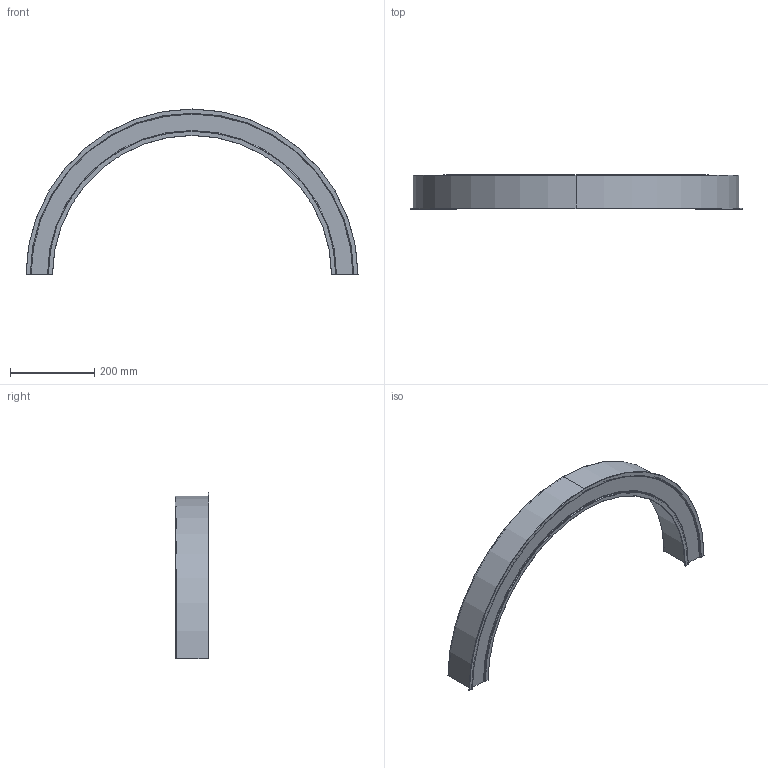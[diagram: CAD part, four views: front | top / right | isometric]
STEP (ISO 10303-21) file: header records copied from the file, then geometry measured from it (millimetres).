
FILE_DESCRIPTION (( 'STEP AP203' ), '1' );
FILE_NAME ('mLight_Swerve 47 Recessed_R362.5 mm 180 deg.STEP', '2020-04-01T10:12:11', ( '' ), ( '' ), 'SwSTEP 2.0', 'SolidWorks 2017', '' );
FILE_SCHEMA (( 'CONFIG_CONTROL_DESIGN' ));
Length unit declared in the file: millimetre
Products named in the file (1): mLight_Swerve 47 Recessed_R362.5 mm 180 deg
Bounding box: 788 x 80.63 x 394 mm (x, y, z)
Volume: 4135075.6 mm3; surface area: 358032.9 mm2
Topology: 1 solids, 1 shells, 93 faces, 247 edges, 156 vertices
Faces by surface type: torus 56, cylinder 16, plane 12, cone 9
Entity records: 3058 total; most frequent: DIRECTION 623, CARTESIAN_POINT 497, ORIENTED_EDGE 494, AXIS2_PLACEMENT_3D 282, EDGE_CURVE 247, CIRCLE 188, VERTEX_POINT 156, FACE_OUTER_BOUND 93
